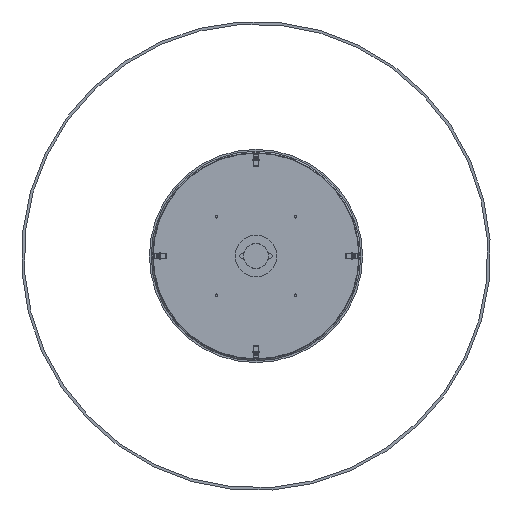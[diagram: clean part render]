
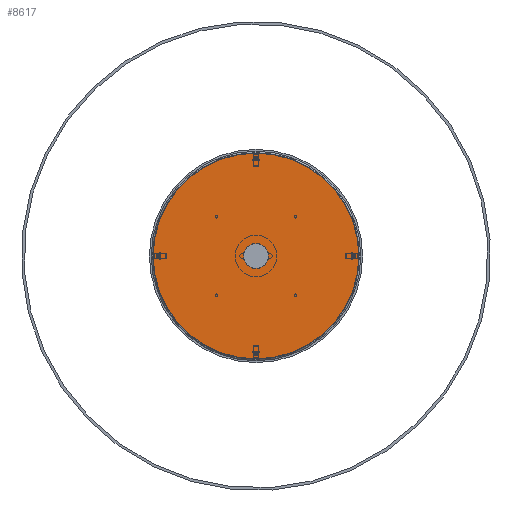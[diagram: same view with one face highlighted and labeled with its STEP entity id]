
A CAD part, front view. The second image highlights one B-rep face of the part: STEP entity #8617.
In plain terms, the highlighted planar face has unit normal (0, -1, 0).
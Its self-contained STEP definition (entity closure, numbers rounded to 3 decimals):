
#737=FACE_OUTER_BOUND('',#1275,.T.);
#1275=EDGE_LOOP('',(#6553));
#3040=CIRCLE('',#9441,111.);
#3681=VERTEX_POINT('',#14317);
#4693=EDGE_CURVE('',#3681,#3681,#3040,.T.);
#6553=ORIENTED_EDGE('',*,*,#4693,.F.);
#7717=PLANE('',#9445);
#8617=ADVANCED_FACE('',(#737),#7717,.T.);
#9441=AXIS2_PLACEMENT_3D('',#14319,#11306,#11307);
#9445=AXIS2_PLACEMENT_3D('',#14325,#11315,#11316);
#11306=DIRECTION('center_axis',(0.,1.,0.));
#11307=DIRECTION('ref_axis',(0.,0.,
1.));
#11315=DIRECTION('center_axis',(0.,-1.,0.));
#11316=DIRECTION('ref_axis',(1.,0.,0.));
#14317=CARTESIAN_POINT('',(111.,0.,0.));
#14319=CARTESIAN_POINT('Origin',(0.,0.,
0.));
#14325=CARTESIAN_POINT('Origin',(0.,0.,
-113.));
